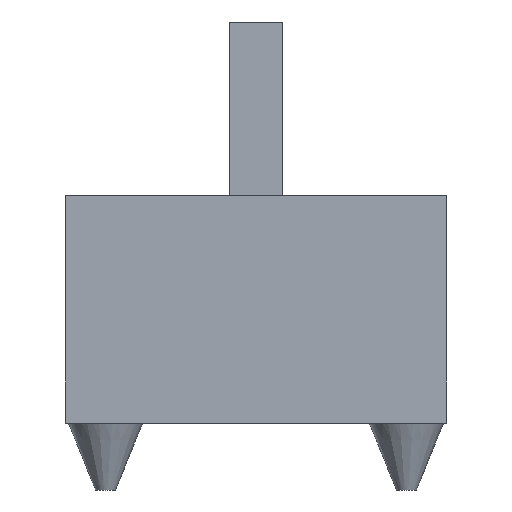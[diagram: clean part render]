
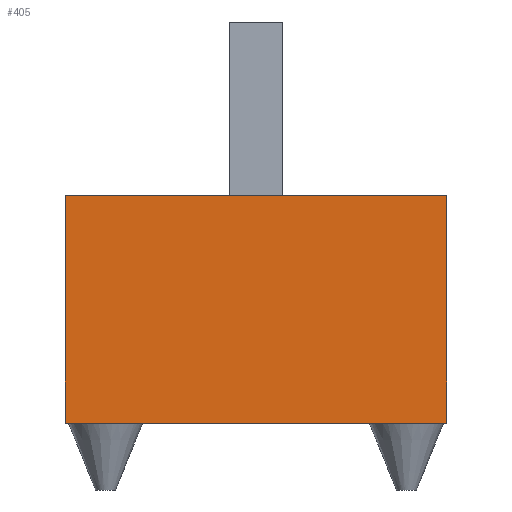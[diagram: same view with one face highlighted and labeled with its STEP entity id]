
A CAD part, front view. The second image highlights one B-rep face of the part: STEP entity #405.
In plain terms, the highlighted planar face has unit normal (0, -1, 0).
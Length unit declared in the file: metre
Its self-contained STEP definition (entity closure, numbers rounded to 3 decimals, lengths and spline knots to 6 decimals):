
#39=LINE('',#656,#79);
#41=LINE('',#660,#81);
#42=LINE('',#662,#82);
#43=LINE('',#664,#83);
#79=VECTOR('',#523,1.);
#81=VECTOR('',#527,1.);
#82=VECTOR('',#528,1.);
#83=VECTOR('',#529,1.);
#132=ORIENTED_EDGE('',*,*,#235,.T.);
#133=ORIENTED_EDGE('',*,*,#236,.F.);
#134=ORIENTED_EDGE('',*,*,#237,.F.);
#135=ORIENTED_EDGE('',*,*,#233,.T.);
#233=EDGE_CURVE('',#284,#283,#39,.T.);
#235=EDGE_CURVE('',#283,#285,#41,.T.);
#236=EDGE_CURVE('',#286,#285,#42,.T.);
#237=EDGE_CURVE('',#284,#286,#43,.T.);
#283=VERTEX_POINT('',#655);
#284=VERTEX_POINT('',#657);
#285=VERTEX_POINT('',#661);
#286=VERTEX_POINT('',#663);
#318=EDGE_LOOP('',(#132,#133,#134,#135));
#352=FACE_BOUND('',#318,.T.);
#384=PLANE('',#450);
#405=ADVANCED_FACE('',(#352),#384,.F.);
#450=AXIS2_PLACEMENT_3D('',#659,#525,#526);
#523=DIRECTION('',(0.,0.,-1.));
#525=DIRECTION('',(0.,1.,0.));
#526=DIRECTION('',(0.,0.,1.));
#527=DIRECTION('',(1.,0.,0.));
#528=DIRECTION('',(0.,0.,-1.));
#529=DIRECTION('',(1.,0.,0.));
#655=CARTESIAN_POINT('',(-0.0285,-0.0505,0.));
#656=CARTESIAN_POINT('',(-0.0285,-0.0505,0.03007));
#657=CARTESIAN_POINT('',(-0.0285,-0.0505,0.03407));
#659=CARTESIAN_POINT('',(0.,-0.0505,0.03007));
#660=CARTESIAN_POINT('',(0.,-0.0505,0.));
#661=CARTESIAN_POINT('',(0.0285,-0.0505,0.));
#662=CARTESIAN_POINT('',(0.0285,-0.0505,0.03007));
#663=CARTESIAN_POINT('',(0.0285,-0.0505,0.03407));
#664=CARTESIAN_POINT('',(-0.0285,-0.0505,0.03407));
